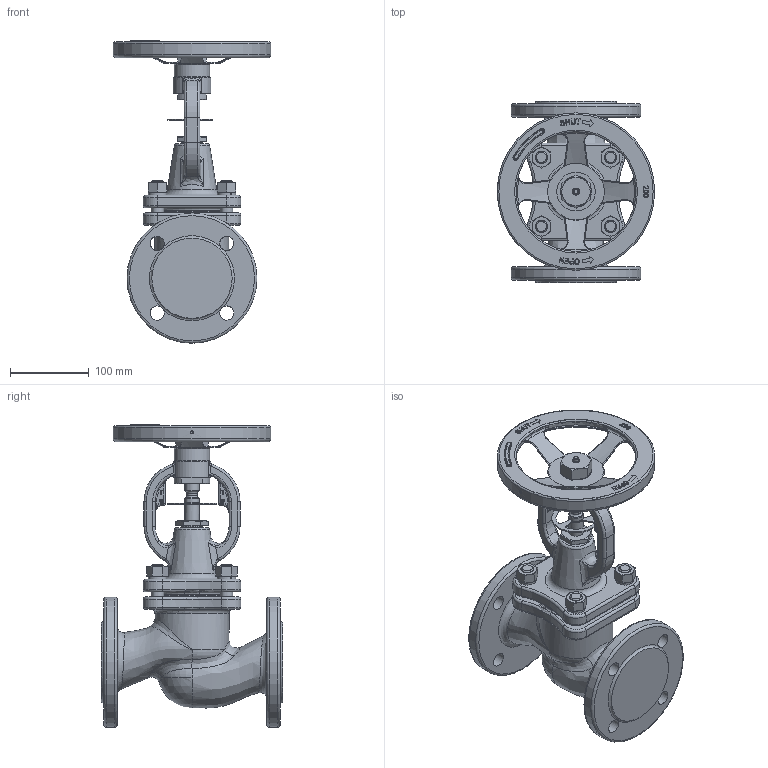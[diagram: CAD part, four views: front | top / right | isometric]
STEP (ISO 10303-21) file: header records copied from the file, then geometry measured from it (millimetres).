
FILE_DESCRIPTION(/* description */ (''),/* implementation_level */ '2;1');
FILE_NAME(/* name */ 'ZV226E_DN50_PN40.stp',/* time_stamp */ '2014-09-30T06:37:55+02:00',/* author */ (''),/* organization */ (''),/* preprocessor_version */ 'ST-DEVELOPER v15',/* originating_system */ 'SIEMENS PLM Software NX 8.5',/* authorisation */ '');
FILE_SCHEMA (('AP203_CONFIGURATION_CONTROLLED_3D_DESIGN_OF_MECHANICAL_PARTS_AND_ASSEMBLIES_MIM_LF { 1 0 10303 403 2 1 2}'));
Length unit declared in the file: millimetre
Products named in the file (1): adam0F487721p5cy
Bounding box: 200 x 230 x 384.1 mm (x, y, z)
Volume: 2868928 mm3; surface area: 336671.8 mm2
Topology: 1 solids, 1 shells, 820 faces, 2060 edges, 1242 vertices
Faces by surface type: plane 315, cylinder 156, bspline 116, torus 113, cone 92, extrusion 25, sphere 3
Full cylindrical faces by diameter (mm): 2 x4, 4 x5, 7 x1, 13 x1, 15.732 x12, 16 x1, 18 x11, 27.7 x1, 34 x1, 35 x1, 39 x1, 39.2 x1, 45 x3, 48 x1, 88 x1, 94 x1, 98 x1, 152 x1, 155 x1, 165 x2, 177 x1, 197 x1, 200 x1
Entity records: 29965 total; most frequent: CARTESIAN_POINT 12371, ORIENTED_EDGE 3744, DIRECTION 3304, EDGE_CURVE 1872, AXIS2_PLACEMENT_3D 1369, VERTEX_POINT 1188, EDGE_LOOP 1016, ADVANCED_FACE 820
